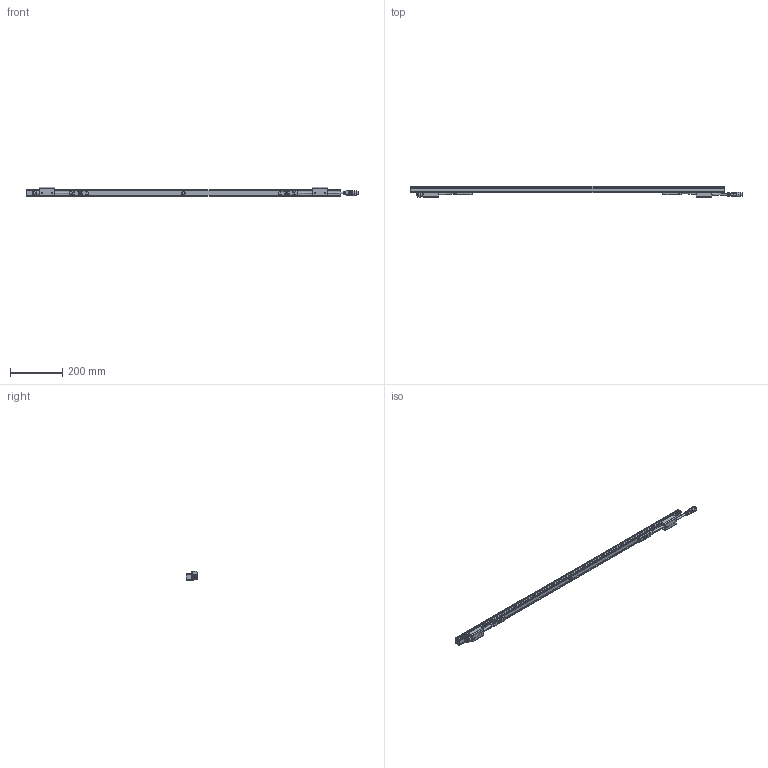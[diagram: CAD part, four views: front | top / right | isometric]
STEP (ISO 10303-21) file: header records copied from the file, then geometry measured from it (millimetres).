
FILE_DESCRIPTION (( 'STEP AP214' ), '1' );
FILE_NAME ('DiGi Linear D-Series 2 L1200.STEP', '2025-11-24T13:52:02', ( '' ), ( '' ), 'SwSTEP 2.0', 'SolidWorks 2025', '' );
FILE_SCHEMA (( 'AUTOMOTIVE_DESIGN' ));
Length unit declared in the file: millimetre
Products named in the file (12): Part1^DiGi Linear D-Series 2; D & E Series 2 breathing valve; Counter sunk screw torx_M2x6; M16 5p Female; DiGi Linear D-Series 2 L1200; M16 5p Male; D series 2 clip top; Counter sunk screw torx_M3x16; Counter sunk screw torx_M2.5x16; D series 2 body_1200; Part2^DiGi Linear D-Series 2; D series 2 clip bottom
Assembly tree (30 placements, depth 2):
  DiGi Linear D-Series 2 L1200
    D series 2 body_1200
    D series 2 clip bottom  x2
    D series 2 clip top  x2
    Counter sunk screw torx_M3x16  x4
    Counter sunk screw torx_M2.5x16  x8
    Counter sunk screw torx_M2x6  x8
    M16 5p Female
    Part1^DiGi Linear D-Series 2
    M16 5p Male
    Part2^DiGi Linear D-Series 2
    D & E Series 2 breathing valve
Bounding box: 1265.31 x 42.09 x 35.5 mm (x, y, z)
Volume: 629643.8 mm3; surface area: 224336.2 mm2
Topology: 35 solids, 38 shells, 2498 faces, 6308 edges, 4063 vertices
Faces by surface type: plane 1132, cylinder 961, cone 134, bspline 130, torus 127, sphere 14
Full cylindrical faces by diameter (mm): 1.8 x4, 2 x8, 2.5 x8, 3 x12, 4.5 x8, 5.81 x4, 9.2 x1, 11.1 x1, 14.25 x1, 14.3 x1, 18 x1
Entity records: 82209 total; most frequent: CARTESIAN_POINT 23839, ORIENTED_EDGE 10468, DIRECTION 10011, EDGE_CURVE 5234, AXIS2_PLACEMENT_3D 3576, VERTEX_POINT 3390, VECTOR 2859, LINE 2859
